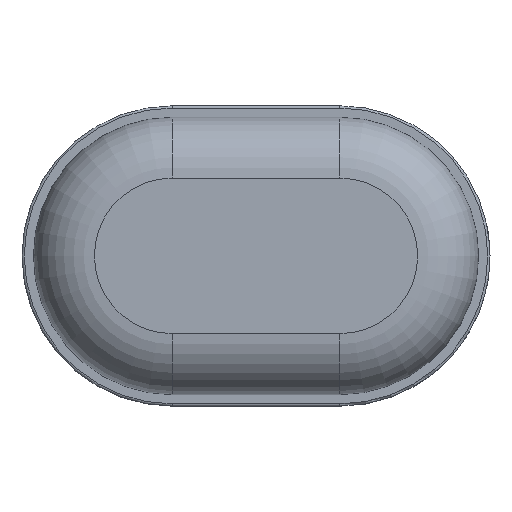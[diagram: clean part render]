
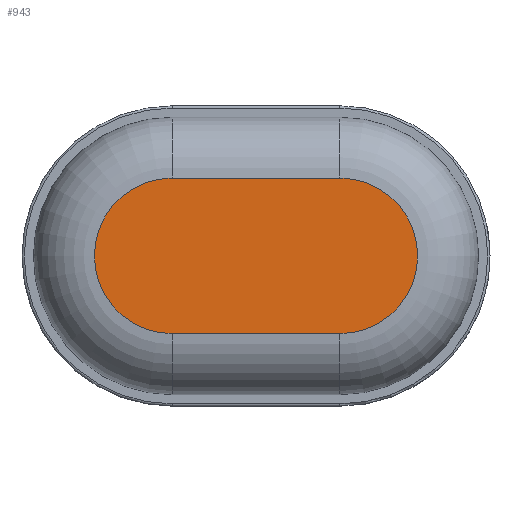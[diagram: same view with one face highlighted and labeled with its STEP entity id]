
A CAD part, top view. The second image highlights one B-rep face of the part: STEP entity #943.
In plain terms, the highlighted planar face has unit normal (0, 0, 1).
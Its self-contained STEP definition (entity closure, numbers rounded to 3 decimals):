
#844=CIRCLE('',#2606,10.251);
#845=CIRCLE('',#2607,10.251);
#943=ADVANCED_FACE('',(#1090),#1018,.F.);
#1018=PLANE('',#2608);
#1090=FACE_OUTER_BOUND('',#1202,.T.);
#1202=EDGE_LOOP('',(#1622,#1623,#1624,#1625));
#1622=ORIENTED_EDGE('',*,*,#2161,.T.);
#1623=ORIENTED_EDGE('',*,*,#2162,.T.);
#1624=ORIENTED_EDGE('',*,*,#2163,.T.);
#1625=ORIENTED_EDGE('',*,*,#2164,.T.);
#1936=VERTEX_POINT('',#3956);
#1937=VERTEX_POINT('',#3957);
#1938=VERTEX_POINT('',#3959);
#1939=VERTEX_POINT('',#3961);
#2161=EDGE_CURVE('',#1936,#1937,#844,.T.);
#2162=EDGE_CURVE('',#1937,#1938,#2315,.T.);
#2163=EDGE_CURVE('',#1938,#1939,#845,.T.);
#2164=EDGE_CURVE('',#1939,#1936,#2316,.T.);
#2315=LINE('',#3958,#2443);
#2316=LINE('',#3962,#2444);
#2443=VECTOR('',#3061,1.);
#2444=VECTOR('',#3064,1.);
#2606=AXIS2_PLACEMENT_3D('',#3955,#3059,#3060);
#2607=AXIS2_PLACEMENT_3D('',#3960,#3062,#3063);
#2608=AXIS2_PLACEMENT_3D('',#3963,#3065,#3066);
#3059=DIRECTION('',(0.,0.,1.));
#3060=DIRECTION('',(0.,-1.,0.));
#3061=DIRECTION('',(-1.,0.,0.));
#3062=DIRECTION('',(0.,0.,1.));
#3063=DIRECTION('',(0.,-1.,0.));
#3064=DIRECTION('',(1.,0.,0.));
#3065=DIRECTION('',(0.,0.,-1.));
#3066=DIRECTION('',(0.,1.,0.));
#3955=CARTESIAN_POINT('',(11.055,-30.15,8.341));
#3956=CARTESIAN_POINT('',(11.055,-40.401,8.341));
#3957=CARTESIAN_POINT('',(11.055,-19.899,8.341));
#3958=CARTESIAN_POINT('',(-11.055,-19.899,8.341));
#3959=CARTESIAN_POINT('',(-11.055,-19.899,8.341));
#3960=CARTESIAN_POINT('',(-11.055,-30.15,8.341));
#3961=CARTESIAN_POINT('',(-11.055,-40.401,8.341));
#3962=CARTESIAN_POINT('',(-11.055,-40.401,8.341));
#3963=CARTESIAN_POINT('',(-11.055,-30.15,8.341));
